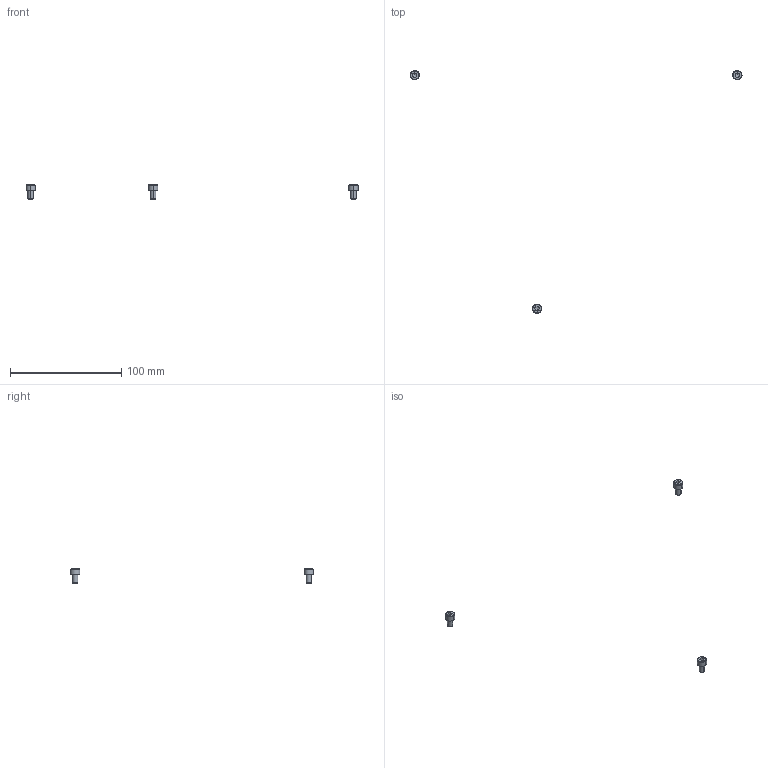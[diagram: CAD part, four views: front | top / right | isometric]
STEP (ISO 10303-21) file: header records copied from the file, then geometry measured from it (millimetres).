
FILE_DESCRIPTION(/* description */ (''),/* implementation_level */ '2;1');
FILE_NAME(/* name */ '9.electronics#9.2#CB5-8',/* time_stamp */ '2014-12-01T20:18:45+01:00',/* author */ (''),/* organization */ (''),/* preprocessor_version */ 'ST-DEVELOPER v14',/* originating_system */ '',/* authorisation */ '');
FILE_SCHEMA (('AUTOMOTIVE_DESIGN'));
Length unit declared in the file: millimetre
Products named in the file (2): Document; screw DIN912-like, M5x08
Assembly tree (3 placements, depth 2):
  Document
    screw DIN912-like, M5x08  x3
Bounding box: 298.49 x 218.5 x 13 mm (x, y, z)
Volume: 1197.2 mm3; surface area: 1184.6 mm2
Topology: 3 solids, 3 shells, 75 faces, 168 edges, 99 vertices
Faces by surface type: plane 45, bspline 30
Entity records: 1421 total; most frequent: CARTESIAN_POINT 634, B_SPLINE_CURVE_WITH_KNOTS 126, ORIENTED_EDGE 108, PCURVE 108, DEFINITIONAL_REPRESENTATION 108, SURFACE_CURVE 54, EDGE_CURVE 54, VERTEX_POINT 33
